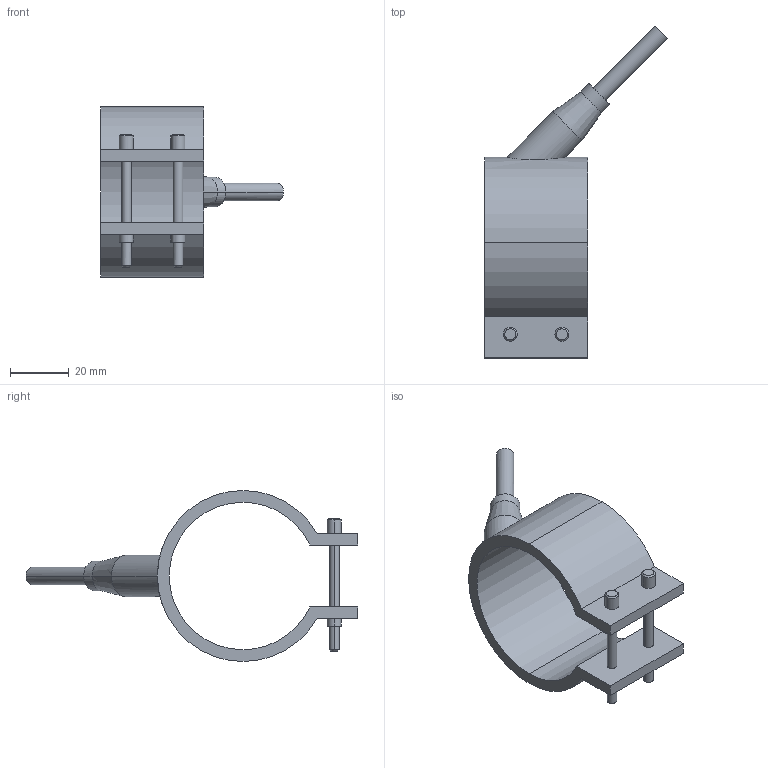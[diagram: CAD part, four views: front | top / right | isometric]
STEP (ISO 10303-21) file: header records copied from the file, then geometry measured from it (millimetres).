
FILE_DESCRIPTION(('CATIA V5 STEP Exchange'),'2;1');
FILE_NAME('C:\Users\Utente\Desktop\IO LAVORO\3D X SITO CF\X SITO\PLASTICA\RF1\29050035.stp','2021-03-27T09:30:39+00:00',('none'),('none'),'CATIA Version 5 Release 20 GA (IN-10)','CATIA V5 STEP AP203','none');
FILE_SCHEMA(('CONFIG_CONTROL_DESIGN'));
Length unit declared in the file: millimetre
Products named in the file (1): 29050035
Bounding box: 62.05 x 112.55 x 58 mm (x, y, z)
Volume: 29911.7 mm3; surface area: 16293.7 mm2
Topology: 1 solids, 1 shells, 54 faces, 124 edges, 80 vertices
Faces by surface type: cylinder 28, plane 16, cone 10
Entity records: 1714 total; most frequent: CARTESIAN_POINT 473, ORIENTED_EDGE 248, DIRECTION 215, EDGE_CURVE 124, AXIS2_PLACEMENT_3D 108, VERTEX_POINT 80, EDGE_LOOP 66, VECTOR 56
